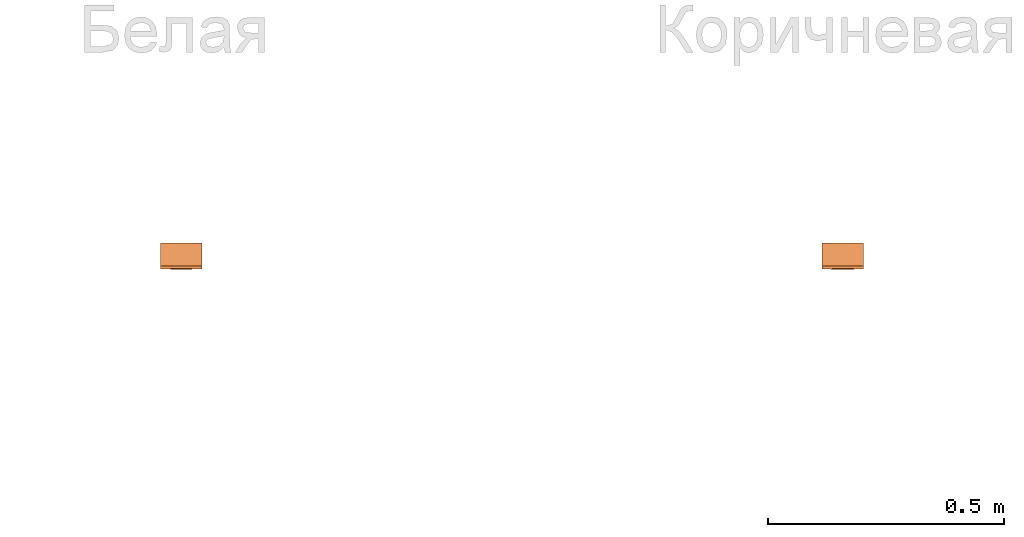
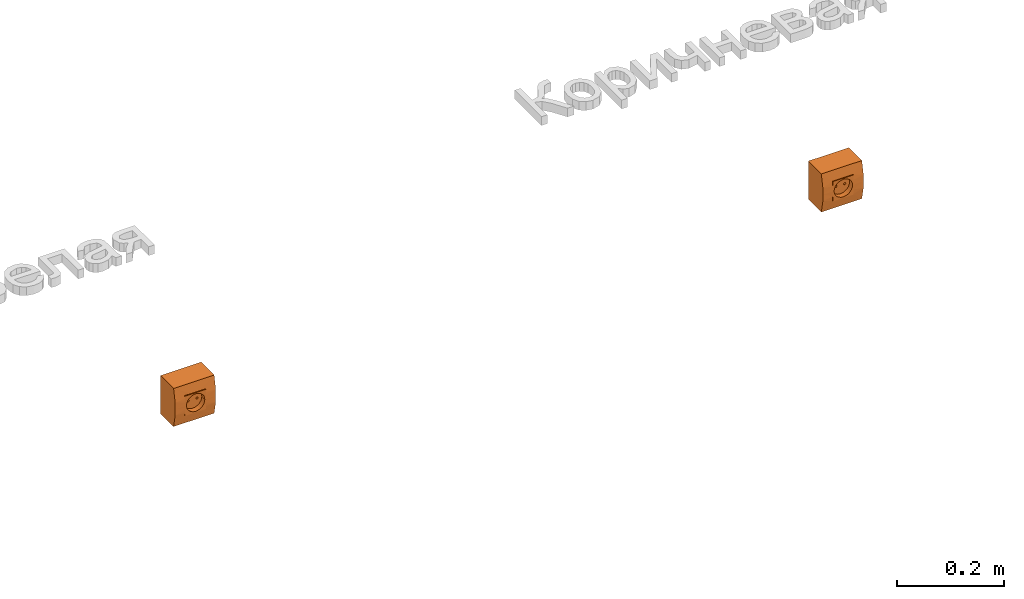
# One storey, part 83 of 87: 2 proxies.
"""IFC2X3 building model written with IfcOpenShell, lengths in millimetres."""

from ifc_helpers import new_model, entity, si_unit, converted_unit, derived_unit, direction, frame, origin, place, context, subcontext, project, spatial, faceted_brep, source, transform, mapped, material, type_object, type_shapes, element, save


model = new_model("IFC2X3")

# Units and contexts
model_context = context("Model", 3, precision=0.01, world=origin(), true_north=direction((6.12303176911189e-17, 1.0)))
body_context = subcontext(model_context, "Body", "Model", "MODEL_VIEW")
ifc_project = project(units=[si_unit("LENGTHUNIT", "METRE", prefix="MILLI"), si_unit("AREAUNIT", "SQUARE_METRE"), si_unit("VOLUMEUNIT", "CUBIC_METRE"), converted_unit("PLANEANGLEUNIT", "DEGREE", entity("IfcRatioMeasure", 0.0174532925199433), si_unit("PLANEANGLEUNIT", "RADIAN"), dimensions=[0, 0, 0, 0, 0, 0, 0]), si_unit("MASSUNIT", "GRAM", prefix="KILO"), derived_unit("MASSDENSITYUNIT", [(si_unit("MASSUNIT", "GRAM", prefix="KILO"), 1), (si_unit("LENGTHUNIT", "METRE"), -3)]), si_unit("TIMEUNIT", "SECOND"), si_unit("FREQUENCYUNIT", "HERTZ"), si_unit("THERMODYNAMICTEMPERATUREUNIT", "DEGREE_CELSIUS"), derived_unit("THERMALTRANSMITTANCEUNIT", [(si_unit("MASSUNIT", "GRAM", prefix="KILO"), 1), (si_unit("THERMODYNAMICTEMPERATUREUNIT", "KELVIN"), -1), (si_unit("TIMEUNIT", "SECOND"), -3)]), derived_unit("VOLUMETRICFLOWRATEUNIT", [(si_unit("LENGTHUNIT", "METRE"), 3), (si_unit("TIMEUNIT", "SECOND"), -1)]), si_unit("ELECTRICCURRENTUNIT", "AMPERE"), si_unit("ELECTRICVOLTAGEUNIT", "VOLT"), si_unit("POWERUNIT", "WATT"), si_unit("FORCEUNIT", "NEWTON", prefix="KILO"), si_unit("ILLUMINANCEUNIT", "LUX"), si_unit("LUMINOUSFLUXUNIT", "LUMEN"), si_unit("LUMINOUSINTENSITYUNIT", "CANDELA"), derived_unit("USERDEFINED", [(si_unit("MASSUNIT", "GRAM", prefix="KILO"), -1), (si_unit("LENGTHUNIT", "METRE"), -2), (si_unit("TIMEUNIT", "SECOND"), 3), (si_unit("LUMINOUSFLUXUNIT", "LUMEN"), 1)]), derived_unit("LINEARVELOCITYUNIT", [(si_unit("LENGTHUNIT", "METRE"), 1), (si_unit("TIMEUNIT", "SECOND"), -1)]), si_unit("PRESSUREUNIT", "PASCAL"), derived_unit("USERDEFINED", [(si_unit("LENGTHUNIT", "METRE"), -2), (si_unit("MASSUNIT", "GRAM", prefix="KILO"), 1), (si_unit("TIMEUNIT", "SECOND"), -2)])], contexts=[model_context])

# Site, building, storey
site_placement = place(None, origin())
site = spatial("IfcSite", under=ifc_project, at=site_placement, Name="Default", CompositionType="ELEMENT")
building_placement = place(site_placement, origin())
building = spatial("IfcBuilding", under=site, at=building_placement, Name="Наименование здания", CompositionType="ELEMENT")
storey_placement = place(building_placement, origin())
storey = spatial("IfcBuildingStorey", under=building, at=storey_placement, Name="Этаж 01", CompositionType="ELEMENT", Elevation=0.0)

# Proxies
ifc_material_1 = material(Name="DKC_Пластик_Белый")
building_element_proxy_type_1 = type_object("IfcBuildingElementProxyType", Name="Белая", PredefinedType="NOTDEFINED", material=ifc_material_1)
shared_shape_1 = source(origin(), body_context, "Body", "Brep", [
    faceted_brep([(-6.49999999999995, -16.1902414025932, 0.0), (-9.49999999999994, -16.1902414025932, 3.0), (-12.4999999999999, -16.1902414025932, 0.0), (-9.49999999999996, -16.1902414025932, -3.0), (12.4999999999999, -16.1902414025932, 0.0), (9.49999999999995, -16.1902414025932, 3.0), (6.49999999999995, -16.1902414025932, 0.0), (9.49999999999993, -16.1902414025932, -3.0), (-22.5, -55.3, -22.4999999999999), (-22.5, -55.3, 0.0), (-22.5, -54.8698627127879, -11.2827490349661), (-22.5, -53.5819478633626, -22.4999999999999), (-22.5, -55.3, 22.5000000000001), (-22.5, -53.5819478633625, 22.5000000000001), (-22.5, -54.8698627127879, 11.2827490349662), (22.5, -55.3, 22.5000000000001), (22.5, -55.3, 0.0), (22.5, -54.8698627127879, 11.2827490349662), (22.5, -53.5819478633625, 22.5000000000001), (22.5, -55.3, -22.4999999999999), (22.5, -53.5819478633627, -22.499999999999), (22.5, -54.8698627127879, -11.2827490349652), (43.85, 0.0, -43.5500000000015), (43.85, 0.0, 43.5499999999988), (43.85, -48.7563702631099, 43.5499999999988), (43.85, -51.6622443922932, 29.129958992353), (43.85, -54.5681185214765, 14.7099179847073), (43.85, -54.5681185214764, 0.0), (43.85, -54.5681185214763, -14.7099179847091), (43.85, -51.662244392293, -29.1299589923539), (43.85, -48.7563702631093, -43.5500000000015), (-43.85, 0.0, 43.5499999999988), (-43.85, 0.0, -43.5500000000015), (-43.85, -48.7563702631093, -43.5500000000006), (-43.85, -51.6622443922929, -29.1299589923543), (-43.85, -54.5681185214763, -14.7099179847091), (-43.85, -54.5681185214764, 0.0), (-43.85, -54.5681185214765, 14.7099179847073), (-43.85, -51.6622443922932, 29.129958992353), (-43.85, -48.7563702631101, 43.5499999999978), (-9.55454292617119e-07, -48.7563702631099, 43.5499999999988), (0.0, -48.7563702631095, -43.5500000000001), (14.142135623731, -43.7966073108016, 14.1421356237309), (10.0, -43.7966073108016, 17.3205080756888), (9.49999999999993, -43.7966073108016, 3.0), (17.3205080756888, -43.7966073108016, 10.0), (5.17638090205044, -43.7966073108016, 19.3185165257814), (0.0, -43.7966073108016, 20.0), (6.49999999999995, -43.7966073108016, 0.0), (-6.49999999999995, -43.7966073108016, 0.0), (-9.49999999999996, -43.7966073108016, 3.0), (-5.17638090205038, -43.7966073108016, 19.3185165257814), (-10.0, -43.7966073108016, 17.3205080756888), (-14.1421356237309, -43.7966073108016, 14.142135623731), (-17.3205080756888, -43.7966073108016, 10.0), (-19.3185165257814, -43.7966073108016, 5.17638090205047), (-12.4999999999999, -43.7966073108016, 0.0), (-20.0, -43.7966073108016, 0.0), (-19.3185165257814, -43.7966073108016, -5.17638090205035), (-9.49999999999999, -43.7966073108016, -3.0), (-17.3205080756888, -43.7966073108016, -10.0), (-14.142135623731, -43.7966073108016, -14.1421356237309), (-10.0, -43.7966073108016, -17.3205080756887), (-5.1763809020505, -43.7966073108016, -19.3185165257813), (0.0, -43.7966073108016, -20.0), (9.4999999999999, -43.7966073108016, -3.0), (5.17638090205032, -43.7966073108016, -19.3185165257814), (10.0, -43.7966073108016, -17.3205080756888), (14.1421356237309, -43.7966073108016, -14.142135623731), (17.3205080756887, -43.7966073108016, -10.0), (19.3185165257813, -43.7966073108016, -5.17638090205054), (12.4999999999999, -43.7966073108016, 0.0), (20.0, -43.7966073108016, 0.0), (19.3185165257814, -43.7966073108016, 5.17638090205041), (-20.0, -55.3, 0.0), (-19.3185165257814, -55.3, -5.17638090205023), (-17.3205080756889, -55.3, -10.0), (-14.1421356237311, -55.3, -14.1421356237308), (-10.0, -55.3, -17.3205080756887), (-5.17638090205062, -55.3, -19.3185165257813), (0.0, -55.3, -20.0), (5.1763809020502, -55.3, -19.3185165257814), (10.0, -55.3, -17.3205080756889), (14.1421356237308, -55.3, -14.1421356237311), (17.3205080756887, -55.3, -10.0), (19.3185165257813, -55.3, -5.17638090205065), (20.0, -55.3, 0.0), (19.3185165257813, -55.3, 5.17638090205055), (17.3205080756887, -55.3, 10.0), (14.1421356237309, -55.3, 14.142135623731), (10.0, -55.3, 17.3205080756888), (5.1763809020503, -55.3, 19.3185165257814), (0.0, -55.3, 20.0), (-5.17638090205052, -55.3, 19.3185165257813), (-10.0, -55.3, 17.3205080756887), (-14.142135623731, -55.3, 14.1421356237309), (-17.3205080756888, -55.3, 10.0), (-19.3185165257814, -55.3, 5.17638090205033)], [[[0, 1, 2, 3]], [[4, 5, 6, 7]], [[8, 9, 10, 11]], [[9, 12, 13, 14]], [[15, 16, 17, 18]], [[16, 19, 20, 21]], [[22, 23, 24, 25, 26, 27, 28, 29, 30]], [[31, 32, 33, 34, 35, 36, 37, 38, 39]], [[23, 22, 32, 31]], [[23, 31, 39, 40, 24]], [[22, 30, 41, 33, 32]], [[42, 43, 44]], [[44, 45, 42]], [[43, 46, 44]], [[47, 44, 46]], [[48, 44, 47]], [[49, 48, 47]], [[47, 50, 49]], [[47, 51, 50]], [[50, 51, 52]], [[52, 53, 50]], [[53, 54, 50]], [[50, 54, 55]], [[56, 50, 55]], [[55, 57, 56]], [[56, 57, 58]], [[58, 59, 56]], [[58, 60, 59]], [[61, 59, 60]], [[59, 61, 62]], [[62, 63, 59]], [[63, 64, 59]], [[49, 64, 48]], [[64, 65, 48]], [[66, 65, 64]], [[49, 59, 64]], [[65, 66, 67]], [[67, 68, 65]], [[68, 69, 65]], [[70, 65, 69]], [[71, 65, 70]], [[70, 72, 71]], [[72, 73, 71]], [[44, 71, 73]], [[45, 44, 73]], [[57, 74, 75, 58]], [[58, 75, 76, 60]], [[62, 61, 77, 78]], [[77, 61, 60, 76]], [[63, 62, 78, 79]], [[63, 79, 80, 64]], [[64, 80, 81, 66]], [[66, 81, 82, 67]], [[69, 68, 83, 84]], [[83, 68, 67, 82]], [[70, 69, 84, 85]], [[70, 85, 86, 72]], [[72, 86, 87, 73]], [[73, 87, 88, 45]], [[43, 42, 89, 90]], [[89, 42, 45, 88]], [[46, 43, 90, 91]], [[46, 91, 92, 47]], [[47, 92, 93, 51]], [[51, 93, 94, 52]], [[54, 53, 95, 96]], [[95, 53, 52, 94]], [[55, 54, 96, 97]], [[55, 97, 74, 57]], [[13, 39, 38, 37]], [[11, 35, 34, 33]], [[14, 37, 36]], [[35, 10, 36]], [[13, 37, 14]], [[40, 39, 13, 18, 24]], [[18, 17, 26]], [[18, 26, 25, 24]], [[27, 17, 16]], [[11, 33, 41, 30, 20]], [[10, 35, 11]], [[14, 36, 9]], [[21, 27, 16]], [[21, 28, 27]], [[27, 26, 17]], [[28, 20, 30, 29]], [[20, 28, 21]], [[9, 36, 10]], [[65, 7, 6, 48]], [[71, 4, 7, 65]], [[44, 5, 4, 71]], [[48, 6, 5, 44]], [[59, 3, 2, 56]], [[49, 0, 3, 59]], [[50, 1, 0, 49]], [[56, 2, 1, 50]], [[15, 88, 87]], [[88, 15, 89]], [[15, 87, 16]], [[90, 89, 15]], [[91, 90, 15]], [[92, 91, 15]], [[15, 12, 92]], [[93, 92, 12]], [[94, 93, 12]], [[95, 94, 12]], [[12, 96, 95]], [[96, 12, 97]], [[97, 12, 9]], [[9, 74, 97]], [[74, 9, 75]], [[75, 9, 8]], [[8, 76, 75]], [[76, 8, 77]], [[78, 77, 8]], [[78, 8, 79]], [[80, 79, 8]], [[80, 8, 19]], [[85, 19, 16]], [[19, 85, 84]], [[84, 83, 19]], [[83, 82, 19]], [[82, 81, 19]], [[19, 81, 80]], [[86, 16, 87]], [[16, 86, 85]], [[12, 15, 18, 13]], [[19, 8, 11, 20]]]),
])
type_shapes(building_element_proxy_type_1, [shared_shape_1])
proxy_1_placement = place(storey_placement, frame((61127.9064877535, 3967.93002602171, 0.0)))
element("IfcBuildingElementProxy", 1, at=proxy_1_placement, inside=storey, type_object=building_element_proxy_type_1, material=ifc_material_1, Name="КНС_КоробкаВСбореССиловойРозеткой_ILF_DKC:Белая", ObjectType="Белая", context=body_context, shape_type="MappedRepresentation", body=[
    mapped(shared_shape_1, transform((0.0, 0.0, 0.0), scale=1.0)),
])
ifc_material_2 = material(Name="DKC_Пластик_Коричневый")
building_element_proxy_type_2 = type_object("IfcBuildingElementProxyType", Name="Коричневая", PredefinedType="NOTDEFINED", material=ifc_material_2)
shared_shape_2 = source(origin(), body_context, "Body", "Brep", [
    faceted_brep([(-6.49999999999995, -16.1902414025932, 0.0), (-9.49999999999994, -16.1902414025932, 3.0), (-12.4999999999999, -16.1902414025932, 0.0), (-9.49999999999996, -16.1902414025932, -3.0), (12.4999999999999, -16.1902414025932, 0.0), (9.49999999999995, -16.1902414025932, 3.0), (6.49999999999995, -16.1902414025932, 0.0), (9.49999999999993, -16.1902414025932, -3.0), (9.4999999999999, -43.7966073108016, -3.0), (6.49999999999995, -43.7966073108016, 0.0), (12.4999999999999, -43.7966073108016, 0.0), (9.49999999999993, -43.7966073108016, 3.0), (-9.49999999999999, -43.7966073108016, -3.0), (-12.4999999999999, -43.7966073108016, 0.0), (-6.49999999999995, -43.7966073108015, 0.0), (-9.49999999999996, -43.7966073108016, 3.0), (43.85, 0.0, -43.5500000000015), (43.85, 0.0, 43.5499999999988), (43.85, -48.7563702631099, 43.5499999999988), (43.85, -54.5681185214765, 14.7099179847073), (43.85, -54.5681185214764, 0.0), (43.85, -54.5681185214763, -14.7099179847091), (43.85, -48.7563702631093, -43.5500000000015), (-43.85, 0.0, 43.5499999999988), (-43.85, 0.0, -43.5500000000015), (-43.85, -48.7563702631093, -43.5500000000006), (-43.85, -54.5681185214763, -14.7099179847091), (-43.85, -54.5681185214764, 0.0), (-43.85, -54.5681185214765, 14.7099179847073), (-43.85, -48.7563702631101, 43.5499999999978), (-9.55454292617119e-07, -48.7563702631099, 43.5499999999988), (0.0, -48.7563702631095, -43.5500000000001), (-10.0066442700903, -54.2847676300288, 17.3166703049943), (-15.3231241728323, -54.7415548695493, 12.8530877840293), (-6.74231932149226, -54.1350728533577, 18.5059688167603), (-3.47799437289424, -53.9853780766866, 19.6952673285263), (-18.7925055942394, -55.1418711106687, 6.84410209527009), (-18.7925055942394, -55.1418711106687, -6.84410209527), (-0.00250635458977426, -53.9853187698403, 19.695709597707), (3.47298166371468, -53.985259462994, 19.6961518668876), (20.0, -55.3, 0.0), (19.3960321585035, -55.2209075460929, -3.42265681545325), (18.792064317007, -55.1418150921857, -6.84531363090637), (6.73906568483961, -54.1349627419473, 18.5068428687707), (10.0051497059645, -54.2846660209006, 17.3175338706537), (15.3174099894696, -54.7409618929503, 12.8598970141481), (18.792064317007, -55.1418150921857, 6.8453136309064), (19.3960321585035, -55.2209075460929, 3.4226568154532), (17.0547371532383, -54.941388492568, 9.85260532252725), (3.47298166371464, -53.985259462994, -19.6961518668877), (-0.00250635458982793, -53.9853187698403, -19.695709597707), (-3.47799437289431, -53.9853780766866, -19.6952673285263), (-15.3231241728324, -54.7415548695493, -12.8530877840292), (-19.3962527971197, -55.2209355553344, -3.42205104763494), (-20.0, -55.3, 0.0), (-10.0066442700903, -54.2847676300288, -17.3166703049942), (-6.74231932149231, -54.1350728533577, -18.5059688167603), (17.0547371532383, -54.941388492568, -9.85260532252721), (15.3174099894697, -54.7409618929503, -12.8598970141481), (10.0051497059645, -54.2846660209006, -17.3175338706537), (6.73906568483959, -54.1349627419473, -18.5068428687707), (-19.3962527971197, -55.2209355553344, 3.42205104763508), (14.142135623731, -43.7966073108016, 14.1421356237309), (10.0, -43.7966073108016, 17.3205080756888), (17.3205080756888, -43.7966073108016, 10.0), (5.17638090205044, -43.7966073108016, 19.3185165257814), (0.0, -43.7966073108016, 20.0), (-5.17638090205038, -43.7966073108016, 19.3185165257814), (-10.0, -43.7966073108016, 17.3205080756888), (-14.1421356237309, -43.7966073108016, 14.142135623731), (-17.3205080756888, -43.7966073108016, 10.0), (-19.3185165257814, -43.7966073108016, 5.17638090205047), (-20.0, -43.7966073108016, 0.0), (-19.3185165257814, -43.7966073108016, -5.17638090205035), (-17.3205080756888, -43.7966073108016, -10.0), (-14.142135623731, -43.7966073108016, -14.1421356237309), (-10.0, -43.7966073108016, -17.3205080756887), (-5.1763809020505, -43.7966073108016, -19.3185165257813), (0.0, -43.7966073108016, -20.0), (5.17638090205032, -43.7966073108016, -19.3185165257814), (10.0, -43.7966073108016, -17.3205080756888), (14.1421356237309, -43.7966073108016, -14.142135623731), (17.3205080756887, -43.7966073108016, -10.0), (19.3185165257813, -43.7966073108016, -5.17638090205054), (20.0, -43.7966073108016, 0.0), (19.3185165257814, -43.7966073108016, 5.17638090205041)], [[[0, 1, 2, 3]], [[4, 5, 6, 7]], [[8, 7, 6, 9]], [[10, 4, 7, 8]], [[11, 5, 4, 10]], [[9, 6, 5, 11]], [[12, 3, 2, 13]], [[14, 0, 3, 12]], [[15, 1, 0, 14]], [[13, 2, 1, 15]], [[16, 17, 18, 19, 20, 21, 22]], [[23, 24, 25, 26, 27, 28, 29]], [[17, 16, 24, 23]], [[17, 23, 29, 30, 18]], [[16, 22, 31, 25, 24]], [[29, 28, 32]], [[32, 28, 33]], [[29, 32, 34, 35]], [[36, 33, 28]], [[36, 28, 27]], [[26, 37, 27]], [[35, 30, 29]], [[30, 35, 38, 39]], [[20, 40, 41, 42]], [[18, 39, 43, 44]], [[44, 45, 19]], [[39, 18, 30]], [[20, 46, 47, 40]], [[19, 45, 48, 46]], [[31, 49, 50, 51]], [[44, 19, 18]], [[37, 26, 52]], [[27, 37, 53, 54]], [[52, 26, 55]], [[25, 51, 56, 55]], [[25, 55, 26]], [[25, 31, 51]], [[21, 42, 57, 58]], [[42, 21, 20]], [[20, 19, 46]], [[22, 59, 60, 49]], [[22, 21, 59]], [[49, 31, 22]], [[59, 21, 58]], [[27, 54, 61, 36]], [[62, 63, 11]], [[11, 64, 62]], [[63, 65, 11]], [[66, 11, 65]], [[9, 11, 66]], [[14, 9, 66]], [[66, 15, 14]], [[66, 67, 15]], [[15, 67, 68]], [[68, 69, 15]], [[69, 70, 15]], [[15, 70, 71]], [[13, 15, 71]], [[71, 72, 13]], [[13, 72, 73]], [[73, 12, 13]], [[73, 74, 12]], [[75, 12, 74]], [[12, 75, 76]], [[76, 77, 12]], [[77, 78, 12]], [[14, 78, 9]], [[78, 8, 9]], [[79, 8, 78]], [[14, 12, 78]], [[8, 79, 80]], [[80, 81, 8]], [[81, 82, 8]], [[83, 8, 82]], [[10, 8, 83]], [[83, 84, 10]], [[84, 85, 10]], [[11, 10, 85]], [[64, 11, 85]], [[56, 51, 77]], [[75, 74, 52]], [[37, 74, 73]], [[55, 76, 75]], [[37, 52, 74]], [[53, 37, 73]], [[77, 51, 78]], [[76, 55, 56]], [[75, 52, 55]], [[50, 49, 78, 51]], [[79, 49, 60]], [[76, 56, 77]], [[72, 54, 53]], [[79, 78, 49]], [[83, 41, 84]], [[57, 42, 82, 58]], [[59, 81, 80]], [[42, 83, 82]], [[59, 80, 60]], [[79, 60, 80]], [[58, 81, 59]], [[81, 58, 82]], [[83, 42, 41]], [[84, 41, 40]], [[73, 72, 53]], [[43, 39, 65]], [[45, 62, 64]], [[48, 45, 64, 46]], [[44, 63, 62]], [[47, 46, 85]], [[67, 35, 34]], [[63, 44, 43]], [[62, 45, 44]], [[38, 35, 66, 39]], [[84, 40, 47]], [[63, 43, 65]], [[85, 46, 64]], [[67, 66, 35]], [[71, 61, 72]], [[70, 69, 33]], [[32, 69, 68]], [[71, 70, 36]], [[32, 68, 34]], [[67, 34, 68]], [[33, 69, 32]], [[65, 39, 66]], [[71, 36, 61]], [[70, 33, 36]], [[72, 61, 54]], [[85, 84, 47]]]),
    faceted_brep([(-20.0, -43.7966073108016, 0.0), (-20.0, -55.3, 0.0), (-19.3185165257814, -55.3, -5.17638090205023), (-19.3185165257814, -43.7966073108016, -5.17638090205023), (-17.3205080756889, -55.3, -10.0), (-17.3205080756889, -43.7966073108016, -10.0), (-10.0, -43.7966073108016, -17.3205080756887), (-14.1421356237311, -43.7966073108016, -14.1421356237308), (-14.1421356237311, -55.3, -14.1421356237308), (-10.0, -55.3, -17.3205080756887), (-5.17638090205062, -43.7966073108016, -19.3185165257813), (-5.17638090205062, -55.3, -19.3185165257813), (0.0, -55.3, -20.0), (0.0, -43.7966073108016, -20.0), (5.1763809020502, -55.3, -19.3185165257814), (5.1763809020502, -43.7966073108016, -19.3185165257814), (10.0, -55.3, -17.3205080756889), (10.0, -43.7966073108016, -17.3205080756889), (17.3205080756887, -43.7966073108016, -10.0), (14.1421356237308, -43.7966073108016, -14.1421356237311), (14.1421356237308, -55.3, -14.1421356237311), (17.3205080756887, -55.3, -10.0), (19.3185165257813, -43.7966073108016, -5.17638090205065), (19.3185165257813, -55.3, -5.17638090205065), (20.0, -55.3, 0.0), (20.0, -43.7966073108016, 0.0), (19.3185165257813, -55.3, 5.17638090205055), (19.3185165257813, -43.7966073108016, 5.17638090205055), (17.3205080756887, -55.3, 10.0), (17.3205080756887, -43.7966073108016, 10.0), (10.0, -43.7966073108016, 17.3205080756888), (14.1421356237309, -43.7966073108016, 14.142135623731), (14.1421356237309, -55.3, 14.142135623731), (10.0, -55.3, 17.3205080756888), (5.1763809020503, -43.7966073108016, 19.3185165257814), (5.1763809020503, -55.3, 19.3185165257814), (0.0, -55.3, 20.0), (0.0, -43.7966073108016, 20.0), (-5.17638090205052, -55.3, 19.3185165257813), (-5.17638090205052, -43.7966073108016, 19.3185165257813), (-10.0, -55.3, 17.3205080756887), (-10.0, -43.7966073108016, 17.3205080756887), (-17.3205080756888, -43.7966073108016, 10.0), (-14.142135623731, -43.7966073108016, 14.1421356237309), (-14.142135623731, -55.3, 14.1421356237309), (-17.3205080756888, -55.3, 10.0), (-19.3185165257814, -43.7966073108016, 5.17638090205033), (-19.3185165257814, -55.3, 5.17638090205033), (22.5, -55.3, 22.5000000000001), (-22.5, -55.3, 22.5000000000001), (22.5, -55.3, -22.4999999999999), (-22.5, -55.3, -22.4999999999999), (-22.5, -43.7966073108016, 22.5000000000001), (22.5, -43.7966073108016, 22.5000000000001), (-22.5, -43.7966073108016, -22.4999999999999), (22.5, -43.7966073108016, -22.4999999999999)], [[[0, 1, 2, 3]], [[3, 2, 4, 5]], [[6, 7, 8, 9]], [[8, 7, 5, 4]], [[10, 6, 9, 11]], [[10, 11, 12, 13]], [[13, 12, 14, 15]], [[15, 14, 16, 17]], [[18, 19, 20, 21]], [[20, 19, 17, 16]], [[22, 18, 21, 23]], [[22, 23, 24, 25]], [[25, 24, 26, 27]], [[27, 26, 28, 29]], [[30, 31, 32, 33]], [[32, 31, 29, 28]], [[34, 30, 33, 35]], [[34, 35, 36, 37]], [[37, 36, 38, 39]], [[39, 38, 40, 41]], [[42, 43, 44, 45]], [[44, 43, 41, 40]], [[46, 42, 45, 47]], [[46, 47, 1, 0]], [[48, 28, 26]], [[28, 48, 32]], [[48, 26, 24]], [[33, 32, 48]], [[35, 33, 48]], [[36, 35, 48]], [[48, 49, 36]], [[24, 50, 48]], [[38, 36, 49]], [[40, 38, 49]], [[44, 40, 49]], [[49, 45, 44]], [[45, 49, 47]], [[1, 47, 49]], [[49, 51, 1]], [[2, 1, 51]], [[4, 2, 51]], [[51, 8, 4]], [[8, 51, 9]], [[11, 9, 51]], [[12, 11, 51]], [[12, 51, 50]], [[50, 24, 23]], [[50, 23, 21]], [[21, 20, 50]], [[20, 16, 50]], [[16, 14, 50]], [[50, 14, 12]], [[52, 42, 46]], [[42, 52, 43]], [[52, 46, 0]], [[41, 43, 52]], [[39, 41, 52]], [[37, 39, 52]], [[52, 53, 37]], [[0, 54, 52]], [[34, 37, 53]], [[30, 34, 53]], [[31, 30, 53]], [[53, 29, 31]], [[29, 53, 27]], [[25, 27, 53]], [[53, 55, 25]], [[22, 25, 55]], [[18, 22, 55]], [[55, 19, 18]], [[19, 55, 17]], [[15, 17, 55]], [[13, 15, 55]], [[13, 55, 54]], [[54, 0, 3]], [[54, 3, 5]], [[5, 7, 54]], [[7, 6, 54]], [[6, 10, 54]], [[54, 10, 13]], [[49, 48, 53, 52]], [[51, 49, 52, 54]], [[50, 51, 54, 55]], [[48, 50, 55, 53]]]),
])
type_shapes(building_element_proxy_type_2, [shared_shape_2])
proxy_2_placement = place(storey_placement, frame((59727.9064877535, 3967.93002602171, 0.0)))
element("IfcBuildingElementProxy", 2, at=proxy_2_placement, inside=storey, type_object=building_element_proxy_type_2, material=ifc_material_2, Name="КНС_КоробкаВСбореССиловойРозеткой_ILF_DKC:Коричневая", ObjectType="Коричневая", context=body_context, shape_type="MappedRepresentation", body=[
    mapped(shared_shape_2, transform((0.0, 0.0, 0.0), scale=1.0)),
])

save(model, "model.ifc")
